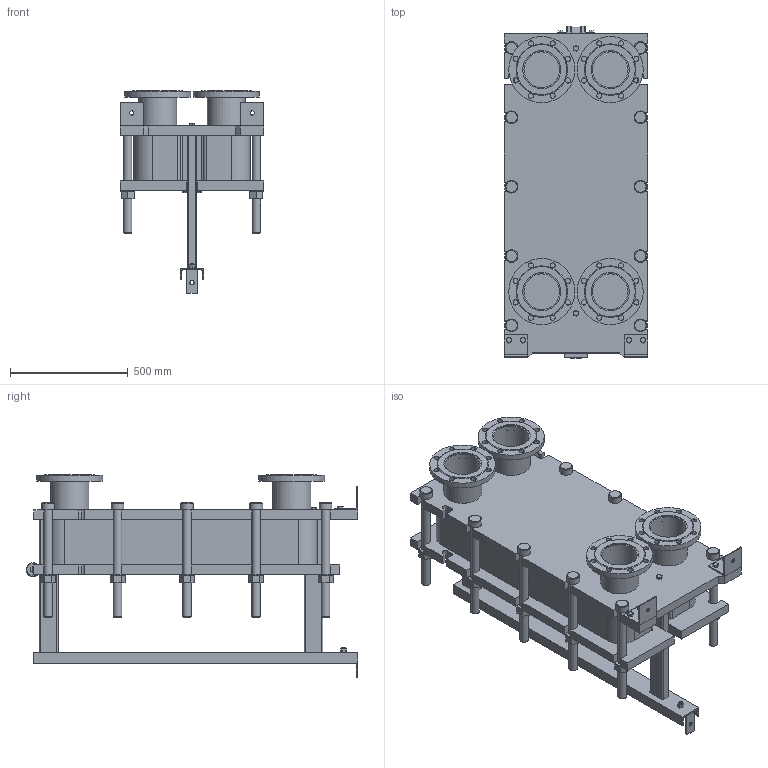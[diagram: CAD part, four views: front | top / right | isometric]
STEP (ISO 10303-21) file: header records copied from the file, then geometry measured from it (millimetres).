
FILE_DESCRIPTION(/* description */ (''),/* implementation_level */ '2;1');
FILE_NAME(/* name */ 'C:\Users\zhuro\Desktop\ENCO\TO\ЭН-041\ЭН-0,5-041-56-1.stp',/* time_stamp */ '2022-06-06T10:53:38+03:00',/* author */ ('zhuro'),/* organization */ (''),/* preprocessor_version */ 'ST-DEVELOPER v18.1',/* originating_system */ 'Autodesk Inventor 2022',/* authorisation */ '');
FILE_SCHEMA (('AUTOMOTIVE_DESIGN { 1 0 10303 214 3 1 1 }'));
Length unit declared in the file: millimetre
Products named in the file (1): ЭН-0,5-041-56-1
Bounding box: 610 x 1406.5 x 860 mm (x, y, z)
Volume: 186044041.6 mm3; surface area: 8054347.2 mm2
Topology: 52 solids, 52 shells, 711 faces, 1696 edges, 1094 vertices
Faces by surface type: plane 487, cylinder 177, cone 41, torus 6
Full cylindrical faces by diameter (mm): 8 x4, 10 x2, 16 x8, 18 x3, 22 x32, 36 x24, 50 x1, 54 x10, 60 x12, 151 x4, 161 x8, 280 x4
Entity records: 22667 total; most frequent: CARTESIAN_POINT 5230, DIRECTION 3644, ORIENTED_EDGE 3392, EDGE_CURVE 1696, AXIS2_PLACEMENT_3D 1272, LINE 1100, VECTOR 1100, VERTEX_POINT 1094
